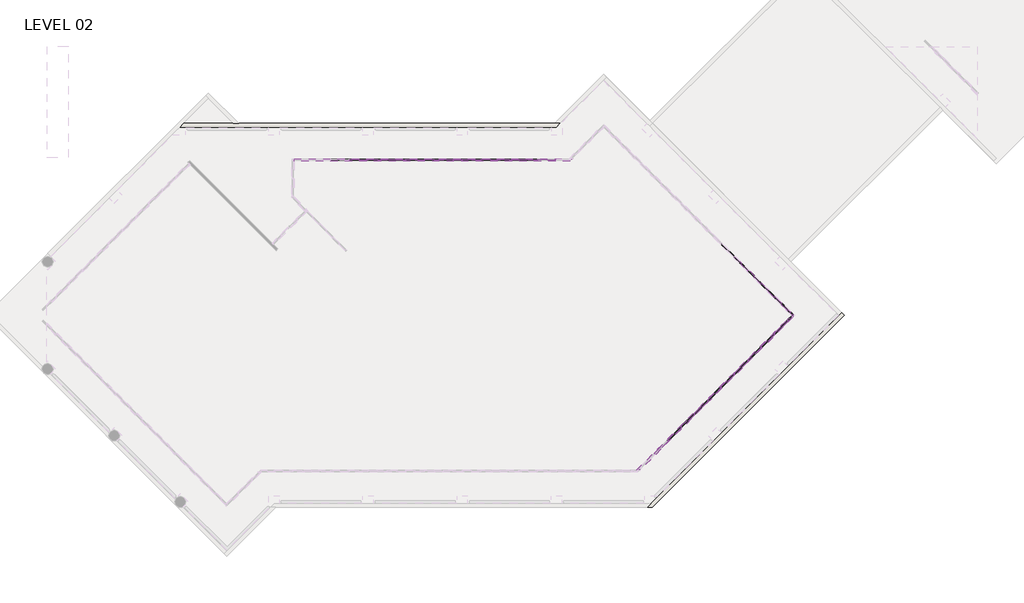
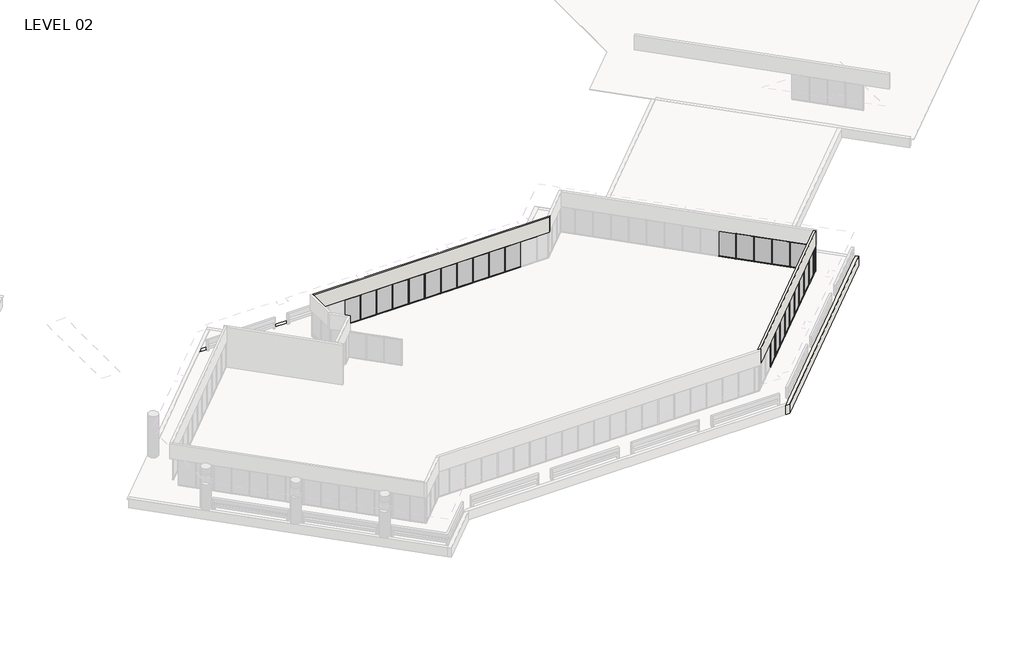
# One storey, part 8 of 19: 81 members, 27 plates, 4 walls.
"""IFC4 building model written with IfcOpenShell, lengths in millimetres."""

from ifc_helpers import new_model, si_unit, frame, origin, place, context, project, spatial, polyline, outline, extrude, faceted_brep, transform, mapped, element, save
from components import member_5247f267, member_79e7b9d8, member_b8d22739, member_e44af9ab, member_800970d4, plate_67294edd, plate_46a4c48d, plate_4e8ae714

model = new_model("IFC4")

# Units and contexts
model_context = context("Model", 3, world=origin())
ifc_project = project(units=[si_unit("LENGTHUNIT", "METRE", prefix="MILLI")], contexts=[model_context])

# Site, building, storey
site = spatial("IfcSite", under=ifc_project)
building = spatial("IfcBuilding", under=site)
storey = spatial("IfcBuildingStorey", under=building, Name="LEVEL 02", Elevation=4140.2)

# Members
placement = place(None, origin())
member_shape = member_5247f267(model_context)
element("IfcMember", 1, ObjectType="Rectangular Mullion : 2\" x 4.5\" rectangular", at=placement, inside=storey, context=model_context, shape_type="MappedRepresentation", body=[
    mapped(member_shape, transform((50294.6517945, 390.679164, 4140.2), x_axis=(0.0, 0.0, -1.0), y_axis=(0.7071067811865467, -0.7071067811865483, 0.0), z_axis=(-0.7071067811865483, -0.7071067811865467, 0.0))),
])
element("IfcMember", 2, ObjectType="Rectangular Mullion : 2\" x 4.5\" rectangular", at=placement, inside=storey, context=model_context, shape_type="MappedRepresentation", body=[
    mapped(member_shape, transform((52449.9132635, 2545.9406331, 4140.2), x_axis=(0.0, 0.0, -1.0), y_axis=(0.707106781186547, -0.707106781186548, 0.0), z_axis=(-0.707106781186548, -0.707106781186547, 0.0))),
])
element("IfcMember", 3, ObjectType="Rectangular Mullion : 2\" x 4.5\" rectangular", at=placement, inside=storey, context=model_context, shape_type="MappedRepresentation", body=[
    mapped(member_shape, transform((53527.5439981, 3623.5713676, 4140.2), x_axis=(0.0, 0.0, -1.0), y_axis=(0.7071067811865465, -0.7071067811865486, 0.0), z_axis=(-0.7071067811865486, -0.7071067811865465, 0.0))),
])
element("IfcMember", 4, ObjectType="Rectangular Mullion : 2\" x 4.5\" rectangular", at=placement, inside=storey, context=model_context, shape_type="MappedRepresentation", body=[
    mapped(member_shape, transform((54605.1747326, 4701.2021021, 4140.2), x_axis=(0.0, 0.0, -1.0), y_axis=(0.707106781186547, -0.707106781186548, 0.0), z_axis=(-0.707106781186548, -0.707106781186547, 0.0))),
])
element("IfcMember", 5, ObjectType="Rectangular Mullion : 2\" x 4.5\" rectangular", at=placement, inside=storey, context=model_context, shape_type="MappedRepresentation", body=[
    mapped(member_shape, transform((56760.4362017, 6856.4635712, 4140.2), x_axis=(0.0, 0.0, -1.0), y_axis=(0.7071067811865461, -0.7071067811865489, 0.0), z_axis=(-0.7071067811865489, -0.7071067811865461, 0.0))),
])
element("IfcMember", 6, ObjectType="Rectangular Mullion : 2\" x 4.5\" rectangular", at=placement, inside=storey, context=model_context, shape_type="MappedRepresentation", body=[
    mapped(member_shape, transform((57838.0669362, 7934.0943057, 4140.2), x_axis=(0.0, 0.0, -1.0), y_axis=(0.7071067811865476, -0.7071067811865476, 0.0), z_axis=(-0.7071067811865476, -0.7071067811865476, 0.0))),
])
element("IfcMember", 7, ObjectType="Rectangular Mullion : 2\" x 4.5\" rectangular", at=placement, inside=storey, context=model_context, shape_type="MappedRepresentation", body=[
    mapped(member_shape, transform((58879.5979736, 12012.4904011, 4140.2), x_axis=(0.0, 0.0, -1.0), y_axis=(0.707106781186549, 0.7071067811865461, 0.0), z_axis=(0.707106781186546, -0.7071067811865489, 0.0))),
])
element("IfcMember", 8, ObjectType="Rectangular Mullion : 2\" x 4.5\" rectangular", at=placement, inside=storey, context=model_context, shape_type="MappedRepresentation", body=[
    mapped(member_shape, transform((56724.3365045, 14167.7518702, 4140.2), x_axis=(0.0, 0.0, -1.0), y_axis=(0.7071067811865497, 0.7071067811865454, 0.0), z_axis=(0.7071067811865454, -0.7071067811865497, 0.0))),
])
element("IfcMember", 9, ObjectType="Rectangular Mullion : 2\" x 4.5\" rectangular", at=placement, inside=storey, context=model_context, shape_type="MappedRepresentation", body=[
    mapped(member_shape, transform((58915.6976707, 9011.7250402, 4140.2), x_axis=(0.0, 0.0, -1.0), y_axis=(0.7071067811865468, -0.7071067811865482, 0.0), z_axis=(-0.7071067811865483, -0.7071067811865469, 0.0))),
])
element("IfcMember", 10, ObjectType="Rectangular Mullion : 2\" x 4.5\" rectangular", at=placement, inside=storey, context=model_context, shape_type="MappedRepresentation", body=[
    mapped(member_shape, transform((59957.2287081, 10934.8596666, 4140.2), x_axis=(0.0, 0.0, -1.0), y_axis=(0.7071067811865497, 0.7071067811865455, 0.0), z_axis=(0.7071067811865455, -0.7071067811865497, 0.0))),
])
element("IfcMember", 11, ObjectType="Rectangular Mullion : 2\" x 4.5\" rectangular", at=placement, inside=storey, context=model_context, shape_type="MappedRepresentation", body=[
    mapped(member_shape, transform((55682.8054671, 5778.8328366, 4140.2), x_axis=(0.0, 0.0, -1.0), y_axis=(0.7071067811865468, -0.7071067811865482, 0.0), z_axis=(-0.7071067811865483, -0.7071067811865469, 0.0))),
])
element("IfcMember", 12, ObjectType="Rectangular Mullion : 2\" x 4.5\" rectangular", at=placement, inside=storey, context=model_context, shape_type="MappedRepresentation", body=[
    mapped(member_shape, transform((51372.282529, 1468.3098985, 4140.2), x_axis=(0.0, 0.0, -1.0), y_axis=(0.7071067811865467, -0.7071067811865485, 0.0), z_axis=(-0.7071067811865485, -0.7071067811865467, 0.0))),
])
element("IfcMember", 13, ObjectType="Rectangular Mullion : 2\" x 4.5\" rectangular", at=placement, inside=storey, context=model_context, shape_type="MappedRepresentation", body=[
    mapped(member_shape, transform((57801.9672391, 13090.1211357, 4140.2), x_axis=(0.0, 0.0, -1.0), y_axis=(0.707106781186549, 0.7071067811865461, 0.0), z_axis=(0.707106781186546, -0.7071067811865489, 0.0))),
])
element("IfcMember", 14, ObjectType="Rectangular Mullion : 2\" x 4.5\" rectangular", at=placement, inside=storey, context=model_context, shape_type="MappedRepresentation", body=[
    mapped(member_shape, transform((55646.70577, 15245.3826047, 4140.2), x_axis=(0.0, 0.0, -1.0), y_axis=(0.7071067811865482, 0.7071067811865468, 0.0), z_axis=(0.7071067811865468, -0.7071067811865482, 0.0))),
])
element("IfcMember", 15, ObjectType="Rectangular Mullion : 2\" x 4.5\" rectangular", at=placement, inside=storey, context=model_context, shape_type="MappedRepresentation", body=[
    mapped(member_shape, transform((36658.55, 23089.2828721, 4140.2), x_axis=(0.0, 0.0, -1.0), y_axis=(0.0, 1.0, 0.0), z_axis=(1.0, 0.0, 0.0))),
])
element("IfcMember", 16, ObjectType="Rectangular Mullion : 2\" x 4.5\" rectangular", at=placement, inside=storey, context=model_context, shape_type="MappedRepresentation", body=[
    mapped(member_shape, transform((33610.55, 23089.2828721, 4140.2), x_axis=(0.0, 0.0, -1.0), y_axis=(0.0, 1.0, 0.0), z_axis=(1.0, 0.0, 0.0))),
])
element("IfcMember", 17, ObjectType="Rectangular Mullion : 2\" x 4.5\" rectangular", at=placement, inside=storey, context=model_context, shape_type="MappedRepresentation", body=[
    mapped(member_shape, transform((32086.55, 23089.2828721, 4140.2), x_axis=(0.0, 0.0, -1.0), y_axis=(0.0, 1.0, 0.0), z_axis=(1.0, 0.0, 0.0))),
])
element("IfcMember", 18, ObjectType="Rectangular Mullion : 2\" x 4.5\" rectangular", at=placement, inside=storey, context=model_context, shape_type="MappedRepresentation", body=[
    mapped(member_shape, transform((29038.55, 23089.2828721, 4140.2), x_axis=(0.0, 0.0, -1.0), y_axis=(0.0, 1.0, 0.0), z_axis=(1.0, 0.0, 0.0))),
])
element("IfcMember", 19, ObjectType="Rectangular Mullion : 2\" x 4.5\" rectangular", at=placement, inside=storey, context=model_context, shape_type="MappedRepresentation", body=[
    mapped(member_shape, transform((25990.55, 23089.2828721, 4140.2), x_axis=(0.0, 0.0, -1.0), y_axis=(0.0, 1.0, 0.0), z_axis=(1.0, 0.0, 0.0))),
])
element("IfcMember", 20, ObjectType="Rectangular Mullion : 2\" x 4.5\" rectangular", at=placement, inside=storey, context=model_context, shape_type="MappedRepresentation", body=[
    mapped(member_shape, transform((24466.55, 23089.2828721, 4140.2), x_axis=(0.0, 0.0, -1.0), y_axis=(0.0, 1.0, 0.0), z_axis=(1.0, 0.0, 0.0))),
])
element("IfcMember", 21, ObjectType="Rectangular Mullion : 2\" x 4.5\" rectangular", at=placement, inside=storey, context=model_context, shape_type="MappedRepresentation", body=[
    mapped(member_shape, transform((35134.55, 23089.2828721, 4140.2), x_axis=(0.0, 0.0, -1.0), y_axis=(0.0, 1.0, 0.0), z_axis=(1.0, 0.0, 0.0))),
])
element("IfcMember", 22, ObjectType="Rectangular Mullion : 2\" x 4.5\" rectangular", at=placement, inside=storey, context=model_context, shape_type="MappedRepresentation", body=[
    mapped(member_shape, transform((38182.55, 23089.2828721, 4140.2), x_axis=(0.0, 0.0, -1.0), y_axis=(0.0, 1.0, 0.0), z_axis=(1.0, 0.0, 0.0))),
])
element("IfcMember", 23, ObjectType="Rectangular Mullion : 2\" x 4.5\" rectangular", at=placement, inside=storey, context=model_context, shape_type="MappedRepresentation", body=[
    mapped(member_shape, transform((39706.55, 23089.2828721, 4140.2), x_axis=(0.0, 0.0, -1.0), y_axis=(0.0, 1.0, 0.0), z_axis=(1.0, 0.0, 0.0))),
])
element("IfcMember", 24, ObjectType="Rectangular Mullion : 2\" x 4.5\" rectangular", at=placement, inside=storey, context=model_context, shape_type="MappedRepresentation", body=[
    mapped(member_shape, transform((27514.55, 23089.2828721, 4140.2), x_axis=(0.0, 0.0, -1.0), y_axis=(0.0, 1.0, 0.0), z_axis=(1.0, 0.0, 0.0))),
])
element("IfcMember", 25, ObjectType="Rectangular Mullion : 2\" x 4.5\" rectangular", at=placement, inside=storey, context=model_context, shape_type="MappedRepresentation", body=[
    mapped(member_shape, transform((30562.55, 23089.2828721, 4140.2), x_axis=(0.0, 0.0, -1.0), y_axis=(0.0, 1.0, 0.0), z_axis=(1.0, 0.0, 0.0))),
])
element("IfcMember", 26, ObjectType="Rectangular Mullion : 2\" x 4.5\" rectangular", at=placement, inside=storey, context=model_context, shape_type="MappedRepresentation", body=[
    mapped(member_shape, transform((50258.73077, 354.7581395, 6731.0), x_axis=(0.0, 0.0, 1.0), y_axis=(0.7071067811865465, -0.7071067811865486, 0.0), z_axis=(0.7071067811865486, 0.7071067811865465, 0.0))),
])
element("IfcMember", 27, ObjectType="Rectangular Mullion : 2\" x 4.5\" rectangular", at=placement, inside=storey, context=model_context, shape_type="MappedRepresentation", body=[
    mapped(member_shape, transform((52413.9922391, 2510.0196086, 6731.0), x_axis=(0.0, 0.0, 1.0), y_axis=(0.7071067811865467, -0.7071067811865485, 0.0), z_axis=(0.7071067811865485, 0.7071067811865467, 0.0))),
])
element("IfcMember", 28, ObjectType="Rectangular Mullion : 2\" x 4.5\" rectangular", at=placement, inside=storey, context=model_context, shape_type="MappedRepresentation", body=[
    mapped(member_shape, transform((53491.6229736, 3587.6503431, 6731.0), x_axis=(0.0, 0.0, 1.0), y_axis=(0.7071067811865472, -0.7071067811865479, 0.0), z_axis=(0.7071067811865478, 0.7071067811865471, 0.0))),
])
element("IfcMember", 29, ObjectType="Rectangular Mullion : 2\" x 4.5\" rectangular", at=placement, inside=storey, context=model_context, shape_type="MappedRepresentation", body=[
    mapped(member_shape, transform((54569.2537081, 4665.2810776, 6731.0), x_axis=(0.0, 0.0, 1.0), y_axis=(0.7071067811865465, -0.7071067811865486, 0.0), z_axis=(0.7071067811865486, 0.7071067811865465, 0.0))),
])
element("IfcMember", 30, ObjectType="Rectangular Mullion : 2\" x 4.5\" rectangular", at=placement, inside=storey, context=model_context, shape_type="MappedRepresentation", body=[
    mapped(member_shape, transform((56724.5151772, 6820.5425467, 6731.0), x_axis=(0.0, 0.0, 1.0), y_axis=(0.7071067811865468, -0.7071067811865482, 0.0), z_axis=(0.7071067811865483, 0.7071067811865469, 0.0))),
])
element("IfcMember", 31, ObjectType="Rectangular Mullion : 2\" x 4.5\" rectangular", at=placement, inside=storey, context=model_context, shape_type="MappedRepresentation", body=[
    mapped(member_shape, transform((57802.1459117, 7898.1732812, 6731.0), x_axis=(0.0, 0.0, 1.0), y_axis=(0.7071067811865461, -0.7071067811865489, 0.0), z_axis=(0.7071067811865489, 0.7071067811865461, 0.0))),
])
element("IfcMember", 32, ObjectType="Rectangular Mullion : 2\" x 4.5\" rectangular", at=placement, inside=storey, context=model_context, shape_type="MappedRepresentation", body=[
    mapped(member_shape, transform((58915.5189981, 11976.5693766, 6731.0), x_axis=(0.0, 0.0, 1.0), y_axis=(0.7071067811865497, 0.7071067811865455, 0.0), z_axis=(-0.7071067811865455, 0.7071067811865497, 0.0))),
])
element("IfcMember", 33, ObjectType="Rectangular Mullion : 2\" x 4.5\" rectangular", at=placement, inside=storey, context=model_context, shape_type="MappedRepresentation", body=[
    mapped(member_shape, transform((56760.257529, 14131.8308457, 6731.0), x_axis=(0.0, 0.0, 1.0), y_axis=(0.707106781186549, 0.7071067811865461, 0.0), z_axis=(-0.707106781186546, 0.7071067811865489, 0.0))),
])
element("IfcMember", 34, ObjectType="Rectangular Mullion : 2\" x 4.5\" rectangular", at=placement, inside=storey, context=model_context, shape_type="MappedRepresentation", body=[
    mapped(member_shape, transform((58879.7766462, 8975.8040157, 6731.0), x_axis=(0.0, 0.0, 1.0), y_axis=(0.7071067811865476, -0.7071067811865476, 0.0), z_axis=(0.7071067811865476, 0.7071067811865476, 0.0))),
])
element("IfcMember", 35, ObjectType="Rectangular Mullion : 2\" x 4.5\" rectangular", at=placement, inside=storey, context=model_context, shape_type="MappedRepresentation", body=[
    mapped(member_shape, transform((55646.8844426, 5742.9118122, 6731.0), x_axis=(0.0, 0.0, 1.0), y_axis=(0.707106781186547, -0.707106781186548, 0.0), z_axis=(0.707106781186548, 0.707106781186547, 0.0))),
])
element("IfcMember", 36, ObjectType="Rectangular Mullion : 2\" x 4.5\" rectangular", at=placement, inside=storey, context=model_context, shape_type="MappedRepresentation", body=[
    mapped(member_shape, transform((51336.3615045, 1432.388874, 6731.0), x_axis=(0.0, 0.0, 1.0), y_axis=(0.7071067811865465, -0.7071067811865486, 0.0), z_axis=(0.7071067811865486, 0.7071067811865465, 0.0))),
])
element("IfcMember", 37, ObjectType="Rectangular Mullion : 2\" x 4.5\" rectangular", at=placement, inside=storey, context=model_context, shape_type="MappedRepresentation", body=[
    mapped(member_shape, transform((59957.4073808, 10053.4347503, 6731.0), x_axis=(0.0, 0.0, 1.0), y_axis=(0.7071067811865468, -0.7071067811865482, 0.0), z_axis=(0.7071067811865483, 0.7071067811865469, 0.0))),
])
element("IfcMember", 38, ObjectType="Rectangular Mullion : 2\" x 4.5\" rectangular", at=placement, inside=storey, context=model_context, shape_type="MappedRepresentation", body=[
    mapped(member_shape, transform((57837.8882635, 13054.2001112, 6731.0), x_axis=(0.0, 0.0, 1.0), y_axis=(0.7071067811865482, 0.7071067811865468, 0.0), z_axis=(-0.7071067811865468, 0.7071067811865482, 0.0))),
])
element("IfcMember", 39, ObjectType="Rectangular Mullion : 2\" x 4.5\" rectangular", at=placement, inside=storey, context=model_context, shape_type="MappedRepresentation", body=[
    mapped(member_shape, transform((55682.6267945, 15209.4615802, 6731.0), x_axis=(0.0, 0.0, 1.0), y_axis=(0.7071067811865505, 0.7071067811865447, 0.0), z_axis=(-0.7071067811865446, 0.7071067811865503, 0.0))),
])
element("IfcMember", 40, ObjectType="Rectangular Mullion : 2\" x 4.5\" rectangular", at=placement, inside=storey, context=model_context, shape_type="MappedRepresentation", body=[
    mapped(member_shape, transform((36709.35, 23089.2828721, 6731.0), x_axis=(0.0, 0.0, 1.0), y_axis=(0.0, 1.0, 0.0), z_axis=(-1.0, 0.0, 0.0))),
])
element("IfcMember", 41, ObjectType="Rectangular Mullion : 2\" x 4.5\" rectangular", at=placement, inside=storey, context=model_context, shape_type="MappedRepresentation", body=[
    mapped(member_shape, transform((33661.35, 23089.2828721, 6731.0), x_axis=(0.0, 0.0, 1.0), y_axis=(0.0, 1.0, 0.0), z_axis=(-1.0, 0.0, 0.0))),
])
element("IfcMember", 42, ObjectType="Rectangular Mullion : 2\" x 4.5\" rectangular", at=placement, inside=storey, context=model_context, shape_type="MappedRepresentation", body=[
    mapped(member_shape, transform((32137.35, 23089.2828721, 6731.0), x_axis=(0.0, 0.0, 1.0), y_axis=(0.0, 1.0, 0.0), z_axis=(-1.0, 0.0, 0.0))),
])
element("IfcMember", 43, ObjectType="Rectangular Mullion : 2\" x 4.5\" rectangular", at=placement, inside=storey, context=model_context, shape_type="MappedRepresentation", body=[
    mapped(member_shape, transform((29089.35, 23089.2828721, 6731.0), x_axis=(0.0, 0.0, 1.0), y_axis=(0.0, 1.0, 0.0), z_axis=(-1.0, 0.0, 0.0))),
])
element("IfcMember", 44, ObjectType="Rectangular Mullion : 2\" x 4.5\" rectangular", at=placement, inside=storey, context=model_context, shape_type="MappedRepresentation", body=[
    mapped(member_shape, transform((26041.35, 23089.2828721, 6731.0), x_axis=(0.0, 0.0, 1.0), y_axis=(0.0, 1.0, 0.0), z_axis=(-1.0, 0.0, 0.0))),
])
element("IfcMember", 45, ObjectType="Rectangular Mullion : 2\" x 4.5\" rectangular", at=placement, inside=storey, context=model_context, shape_type="MappedRepresentation", body=[
    mapped(member_shape, transform((24517.35, 23089.2828721, 6731.0), x_axis=(0.0, 0.0, 1.0), y_axis=(0.0, 1.0, 0.0), z_axis=(-1.0, 0.0, 0.0))),
])
element("IfcMember", 46, ObjectType="Rectangular Mullion : 2\" x 4.5\" rectangular", at=placement, inside=storey, context=model_context, shape_type="MappedRepresentation", body=[
    mapped(member_shape, transform((35185.35, 23089.2828721, 6731.0), x_axis=(0.0, 0.0, 1.0), y_axis=(0.0, 1.0, 0.0), z_axis=(-1.0, 0.0, 0.0))),
])
element("IfcMember", 47, ObjectType="Rectangular Mullion : 2\" x 4.5\" rectangular", at=placement, inside=storey, context=model_context, shape_type="MappedRepresentation", body=[
    mapped(member_shape, transform((38233.35, 23089.2828721, 6731.0), x_axis=(0.0, 0.0, 1.0), y_axis=(0.0, 1.0, 0.0), z_axis=(-1.0, 0.0, 0.0))),
])
element("IfcMember", 48, ObjectType="Rectangular Mullion : 2\" x 4.5\" rectangular", at=placement, inside=storey, context=model_context, shape_type="MappedRepresentation", body=[
    mapped(member_shape, transform((39757.35, 23089.2828721, 6731.0), x_axis=(0.0, 0.0, 1.0), y_axis=(0.0, 1.0, 0.0), z_axis=(-1.0, 0.0, 0.0))),
])
element("IfcMember", 49, ObjectType="Rectangular Mullion : 2\" x 4.5\" rectangular", at=placement, inside=storey, context=model_context, shape_type="MappedRepresentation", body=[
    mapped(member_shape, transform((27565.35, 23089.2828721, 6731.0), x_axis=(0.0, 0.0, 1.0), y_axis=(0.0, 1.0, 0.0), z_axis=(-1.0, 0.0, 0.0))),
])
element("IfcMember", 50, ObjectType="Rectangular Mullion : 2\" x 4.5\" rectangular", at=placement, inside=storey, context=model_context, shape_type="MappedRepresentation", body=[
    mapped(member_shape, transform((30613.35, 23089.2828721, 6731.0), x_axis=(0.0, 0.0, 1.0), y_axis=(0.0, 1.0, 0.0), z_axis=(-1.0, 0.0, 0.0))),
])
member_2_shape = member_79e7b9d8(model_context)
element("IfcMember", 51, ObjectType="Rectangular Mullion : 2\" x 4.5\" rectangular", at=placement, inside=storey, context=model_context, shape_type="MappedRepresentation", body=[
    mapped(member_2_shape, transform((60362.1094781, 10458.1368476, 6731.0), x_axis=(0.0, 0.0, 1.0), y_axis=(0.7071067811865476, -0.7071067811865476, 0.0), z_axis=(0.7071067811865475, 0.7071067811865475, 0.0))),
])
element("IfcMember", 52, ObjectType="Rectangular Mullion : 2\" x 4.5\" rectangular", at=placement, inside=storey, context=model_context, shape_type="MappedRepresentation", body=[
    mapped(member_2_shape, transform((59993.3284052, 10089.3557748, 4140.2), x_axis=(0.0, 0.0, -1.0), y_axis=(0.7071067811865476, -0.7071067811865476, 0.0), z_axis=(-0.7071067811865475, -0.7071067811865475, 0.0))),
])
member_3_shape = member_b8d22739(model_context)
element("IfcMember", 53, ObjectType="Rectangular Mullion : 2\" x 4.5\" rectangular", at=placement, inside=storey, context=model_context, shape_type="MappedRepresentation", body=[
    mapped(member_3_shape, transform((60362.1094781, 10529.9788966, 4140.2), x_axis=(0.0, 0.0, -1.0), y_axis=(0.7071067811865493, 0.7071067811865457, 0.0), z_axis=(0.7071067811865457, -0.7071067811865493, 0.0))),
])
element("IfcMember", 54, ObjectType="Rectangular Mullion : 2\" x 4.5\" rectangular", at=placement, inside=storey, context=model_context, shape_type="MappedRepresentation", body=[
    mapped(member_3_shape, transform((59993.1497326, 10898.9386421, 6731.0), x_axis=(0.0, 0.0, 1.0), y_axis=(0.7071067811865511, 0.7071067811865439, 0.0), z_axis=(-0.7071067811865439, 0.7071067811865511, 0.0))),
])
member_4_shape = member_e44af9ab(model_context)
element("IfcMember", 55, ObjectType="Rectangular Mullion : 2\" x 4.5\" rectangular", at=placement, inside=storey, context=model_context, shape_type="MappedRepresentation", body=[
    mapped(member_4_shape, transform((50276.6912822, 372.7186518, 4140.2), x_axis=(0.7071067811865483, 0.7071067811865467, 0.0), y_axis=(0.7071067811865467, -0.7071067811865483, 0.0), z_axis=(0.0, 0.0, -1.0))),
])
element("IfcMember", 56, ObjectType="Rectangular Mullion : 2\" x 4.5\" rectangular", at=placement, inside=storey, context=model_context, shape_type="MappedRepresentation", body=[
    mapped(member_4_shape, transform((52431.9527513, 2527.9801208, 4140.2), x_axis=(0.7071067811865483, 0.7071067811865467, 0.0), y_axis=(0.7071067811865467, -0.7071067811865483, 0.0), z_axis=(0.0, 0.0, -1.0))),
])
element("IfcMember", 57, ObjectType="Rectangular Mullion : 2\" x 4.5\" rectangular", at=placement, inside=storey, context=model_context, shape_type="MappedRepresentation", body=[
    mapped(member_4_shape, transform((53509.5834858, 3605.6108553, 4140.2), x_axis=(0.7071067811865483, 0.7071067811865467, 0.0), y_axis=(0.7071067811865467, -0.7071067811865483, 0.0), z_axis=(0.0, 0.0, -1.0))),
])
element("IfcMember", 58, ObjectType="Rectangular Mullion : 2\" x 4.5\" rectangular", at=placement, inside=storey, context=model_context, shape_type="MappedRepresentation", body=[
    mapped(member_4_shape, transform((54587.2142204, 4683.2415899, 4140.2), x_axis=(0.7071067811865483, 0.7071067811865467, 0.0), y_axis=(0.7071067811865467, -0.7071067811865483, 0.0), z_axis=(0.0, 0.0, -1.0))),
])
element("IfcMember", 59, ObjectType="Rectangular Mullion : 2\" x 4.5\" rectangular", at=placement, inside=storey, context=model_context, shape_type="MappedRepresentation", body=[
    mapped(member_4_shape, transform((56742.4756894, 6838.5030589, 4140.2), x_axis=(0.7071067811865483, 0.7071067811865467, 0.0), y_axis=(0.7071067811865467, -0.7071067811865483, 0.0), z_axis=(0.0, 0.0, -1.0))),
])
element("IfcMember", 60, ObjectType="Rectangular Mullion : 2\" x 4.5\" rectangular", at=placement, inside=storey, context=model_context, shape_type="MappedRepresentation", body=[
    mapped(member_4_shape, transform((57820.1064239, 7916.1337935, 4140.2), x_axis=(0.7071067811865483, 0.7071067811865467, 0.0), y_axis=(0.7071067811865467, -0.7071067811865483, 0.0), z_axis=(0.0, 0.0, -1.0))),
])
element("IfcMember", 61, ObjectType="Rectangular Mullion : 2\" x 4.5\" rectangular", at=placement, inside=storey, context=model_context, shape_type="MappedRepresentation", body=[
    mapped(member_4_shape, transform((58897.5584858, 11994.5298889, 4140.2), x_axis=(-0.7071067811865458, 0.7071067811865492, 0.0), y_axis=(0.7071067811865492, 0.7071067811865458, 0.0), z_axis=(0.0, 0.0, -1.0))),
])
element("IfcMember", 62, ObjectType="Rectangular Mullion : 2\" x 4.5\" rectangular", at=placement, inside=storey, context=model_context, shape_type="MappedRepresentation", body=[
    mapped(member_4_shape, transform((56742.2970168, 14149.7913579, 4140.2), x_axis=(-0.7071067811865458, 0.7071067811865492, 0.0), y_axis=(0.7071067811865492, 0.7071067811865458, 0.0), z_axis=(0.0, 0.0, -1.0))),
])
element("IfcMember", 63, ObjectType="Rectangular Mullion : 2\" x 4.5\" rectangular", at=placement, inside=storey, context=model_context, shape_type="MappedRepresentation", body=[
    mapped(member_4_shape, transform((58897.7371585, 8993.764528, 4140.2), x_axis=(0.7071067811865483, 0.7071067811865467, 0.0), y_axis=(0.7071067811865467, -0.7071067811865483, 0.0), z_axis=(0.0, 0.0, -1.0))),
])
element("IfcMember", 64, ObjectType="Rectangular Mullion : 2\" x 4.5\" rectangular", at=placement, inside=storey, context=model_context, shape_type="MappedRepresentation", body=[
    mapped(member_4_shape, transform((59975.1892204, 10916.8991544, 4140.2), x_axis=(-0.7071067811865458, 0.7071067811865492, 0.0), y_axis=(0.7071067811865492, 0.7071067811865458, 0.0), z_axis=(0.0, 0.0, -1.0))),
])
element("IfcMember", 65, ObjectType="Rectangular Mullion : 2\" x 4.5\" rectangular", at=placement, inside=storey, context=model_context, shape_type="MappedRepresentation", body=[
    mapped(member_4_shape, transform((55664.8449549, 5760.8723244, 4140.2), x_axis=(0.7071067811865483, 0.7071067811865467, 0.0), y_axis=(0.7071067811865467, -0.7071067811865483, 0.0), z_axis=(0.0, 0.0, -1.0))),
])
element("IfcMember", 66, ObjectType="Rectangular Mullion : 2\" x 4.5\" rectangular", at=placement, inside=storey, context=model_context, shape_type="MappedRepresentation", body=[
    mapped(member_4_shape, transform((51354.3220168, 1450.3493863, 4140.2), x_axis=(0.7071067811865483, 0.7071067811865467, 0.0), y_axis=(0.7071067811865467, -0.7071067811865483, 0.0), z_axis=(0.0, 0.0, -1.0))),
])
element("IfcMember", 67, ObjectType="Rectangular Mullion : 2\" x 4.5\" rectangular", at=placement, inside=storey, context=model_context, shape_type="MappedRepresentation", body=[
    mapped(member_4_shape, transform((59975.367893, 10071.3952625, 4140.2), x_axis=(0.7071067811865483, 0.7071067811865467, 0.0), y_axis=(0.7071067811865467, -0.7071067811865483, 0.0), z_axis=(0.0, 0.0, -1.0))),
])
element("IfcMember", 68, ObjectType="Rectangular Mullion : 2\" x 4.5\" rectangular", at=placement, inside=storey, context=model_context, shape_type="MappedRepresentation", body=[
    mapped(member_4_shape, transform((57819.9277513, 13072.1606234, 4140.2), x_axis=(-0.7071067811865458, 0.7071067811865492, 0.0), y_axis=(0.7071067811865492, 0.7071067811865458, 0.0), z_axis=(0.0, 0.0, -1.0))),
])
element("IfcMember", 69, ObjectType="Rectangular Mullion : 2\" x 4.5\" rectangular", at=placement, inside=storey, context=model_context, shape_type="MappedRepresentation", body=[
    mapped(member_4_shape, transform((55664.6662822, 15227.4220925, 4140.2), x_axis=(-0.7071067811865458, 0.7071067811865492, 0.0), y_axis=(0.7071067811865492, 0.7071067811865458, 0.0), z_axis=(0.0, 0.0, -1.0))),
])
element("IfcMember", 70, ObjectType="Rectangular Mullion : 2\" x 4.5\" rectangular", at=placement, inside=storey, context=model_context, shape_type="MappedRepresentation", body=[
    mapped(member_4_shape, transform((36683.95, 23089.2828721, 4140.2), x_axis=(-1.0, 0.0, 0.0), y_axis=(0.0, 1.0, 0.0), z_axis=(0.0, 0.0, -1.0))),
])
element("IfcMember", 71, ObjectType="Rectangular Mullion : 2\" x 4.5\" rectangular", at=placement, inside=storey, context=model_context, shape_type="MappedRepresentation", body=[
    mapped(member_4_shape, transform((33635.95, 23089.2828721, 4140.2), x_axis=(-1.0, 0.0, 0.0), y_axis=(0.0, 1.0, 0.0), z_axis=(0.0, 0.0, -1.0))),
])
element("IfcMember", 72, ObjectType="Rectangular Mullion : 2\" x 4.5\" rectangular", at=placement, inside=storey, context=model_context, shape_type="MappedRepresentation", body=[
    mapped(member_4_shape, transform((32111.95, 23089.2828721, 4140.2), x_axis=(-1.0, 0.0, 0.0), y_axis=(0.0, 1.0, 0.0), z_axis=(0.0, 0.0, -1.0))),
])
element("IfcMember", 73, ObjectType="Rectangular Mullion : 2\" x 4.5\" rectangular", at=placement, inside=storey, context=model_context, shape_type="MappedRepresentation", body=[
    mapped(member_4_shape, transform((29063.95, 23089.2828721, 4140.2), x_axis=(-1.0, 0.0, 0.0), y_axis=(0.0, 1.0, 0.0), z_axis=(0.0, 0.0, -1.0))),
])
element("IfcMember", 74, ObjectType="Rectangular Mullion : 2\" x 4.5\" rectangular", at=placement, inside=storey, context=model_context, shape_type="MappedRepresentation", body=[
    mapped(member_4_shape, transform((26015.95, 23089.2828721, 4140.2), x_axis=(-1.0, 0.0, 0.0), y_axis=(0.0, 1.0, 0.0), z_axis=(0.0, 0.0, -1.0))),
])
element("IfcMember", 75, ObjectType="Rectangular Mullion : 2\" x 4.5\" rectangular", at=placement, inside=storey, context=model_context, shape_type="MappedRepresentation", body=[
    mapped(member_4_shape, transform((24491.95, 23089.2828721, 4140.2), x_axis=(-1.0, 0.0, 0.0), y_axis=(0.0, 1.0, 0.0), z_axis=(0.0, 0.0, -1.0))),
])
element("IfcMember", 76, ObjectType="Rectangular Mullion : 2\" x 4.5\" rectangular", at=placement, inside=storey, context=model_context, shape_type="MappedRepresentation", body=[
    mapped(member_4_shape, transform((35159.95, 23089.2828721, 4140.2), x_axis=(-1.0, 0.0, 0.0), y_axis=(0.0, 1.0, 0.0), z_axis=(0.0, 0.0, -1.0))),
])
element("IfcMember", 77, ObjectType="Rectangular Mullion : 2\" x 4.5\" rectangular", at=placement, inside=storey, context=model_context, shape_type="MappedRepresentation", body=[
    mapped(member_4_shape, transform((38207.95, 23089.2828721, 4140.2), x_axis=(-1.0, 0.0, 0.0), y_axis=(0.0, 1.0, 0.0), z_axis=(0.0, 0.0, -1.0))),
])
element("IfcMember", 78, ObjectType="Rectangular Mullion : 2\" x 4.5\" rectangular", at=placement, inside=storey, context=model_context, shape_type="MappedRepresentation", body=[
    mapped(member_4_shape, transform((27539.95, 23089.2828721, 4140.2), x_axis=(-1.0, 0.0, 0.0), y_axis=(0.0, 1.0, 0.0), z_axis=(0.0, 0.0, -1.0))),
])
element("IfcMember", 79, ObjectType="Rectangular Mullion : 2\" x 4.5\" rectangular", at=placement, inside=storey, context=model_context, shape_type="MappedRepresentation", body=[
    mapped(member_4_shape, transform((30587.95, 23089.2828721, 4140.2), x_axis=(-1.0, 0.0, 0.0), y_axis=(0.0, 1.0, 0.0), z_axis=(0.0, 0.0, -1.0))),
])
member_5_shape = member_800970d4(model_context)
element("IfcMember", 80, ObjectType="Rectangular Mullion : 2\" x 4.5\" rectangular", at=placement, inside=storey, context=model_context, shape_type="MappedRepresentation", body=[
    mapped(member_5_shape, transform((60398.0305026, 10494.0578721, 4140.2), x_axis=(0.7071067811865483, 0.7071067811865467, 0.0), y_axis=(0.7071067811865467, -0.7071067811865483, 0.0), z_axis=(0.0, 0.0, -1.0))),
])
element("IfcMember", 81, ObjectType="Rectangular Mullion : 2\" x 4.5\" rectangular", at=placement, inside=storey, context=model_context, shape_type="MappedRepresentation", body=[
    mapped(member_5_shape, transform((60398.0305026, 10494.0578721, 6731.0), x_axis=(0.7071067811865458, -0.7071067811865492, 0.0), y_axis=(0.7071067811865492, 0.7071067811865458, 0.0), z_axis=(0.0, 0.0, 1.0))),
])

# Plates
plate_shape = plate_67294edd(model_context)
element("IfcPlate", 82, ObjectType="System Panel : 1/4\" Glass", at=placement, inside=storey, context=model_context, shape_type="MappedRepresentation", body=[
    mapped(plate_shape, transform((50815.5066495, 911.534019, 4191.0), x_axis=(0.7071067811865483, 0.7071067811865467, 0.0), y_axis=(-0.7071067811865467, 0.7071067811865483, 0.0), z_axis=(0.0, 0.0, 1.0))),
])
element("IfcPlate", 83, ObjectType="System Panel : 1/4\" Glass", at=placement, inside=storey, context=model_context, shape_type="MappedRepresentation", body=[
    mapped(plate_shape, transform((52970.7681186, 3066.7954881, 4191.0), x_axis=(0.7071067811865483, 0.7071067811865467, 0.0), y_axis=(-0.7071067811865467, 0.7071067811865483, 0.0), z_axis=(0.0, 0.0, 1.0))),
])
element("IfcPlate", 84, ObjectType="System Panel : 1/4\" Glass", at=placement, inside=storey, context=model_context, shape_type="MappedRepresentation", body=[
    mapped(plate_shape, transform((54048.3988531, 4144.4262226, 4191.0), x_axis=(0.7071067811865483, 0.7071067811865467, 0.0), y_axis=(-0.7071067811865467, 0.7071067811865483, 0.0), z_axis=(0.0, 0.0, 1.0))),
])
element("IfcPlate", 85, ObjectType="System Panel : 1/4\" Glass", at=placement, inside=storey, context=model_context, shape_type="MappedRepresentation", body=[
    mapped(plate_shape, transform((55126.0295876, 5222.0569571, 4191.0), x_axis=(0.7071067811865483, 0.7071067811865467, 0.0), y_axis=(-0.7071067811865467, 0.7071067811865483, 0.0), z_axis=(0.0, 0.0, 1.0))),
])
element("IfcPlate", 86, ObjectType="System Panel : 1/4\" Glass", at=placement, inside=storey, context=model_context, shape_type="MappedRepresentation", body=[
    mapped(plate_shape, transform((57281.2910567, 7377.3184262, 4191.0), x_axis=(0.7071067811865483, 0.7071067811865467, 0.0), y_axis=(-0.7071067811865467, 0.7071067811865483, 0.0), z_axis=(0.0, 0.0, 1.0))),
])
element("IfcPlate", 87, ObjectType="System Panel : 1/4\" Glass", at=placement, inside=storey, context=model_context, shape_type="MappedRepresentation", body=[
    mapped(plate_shape, transform((58358.9217912, 8454.9491607, 4191.0), x_axis=(0.7071067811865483, 0.7071067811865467, 0.0), y_axis=(-0.7071067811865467, 0.7071067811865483, 0.0), z_axis=(0.0, 0.0, 1.0))),
])
element("IfcPlate", 88, ObjectType="System Panel : 1/4\" Glass", at=placement, inside=storey, context=model_context, shape_type="MappedRepresentation", body=[
    mapped(plate_shape, transform((58358.7431186, 12533.3452562, 4191.0), x_axis=(-0.7071067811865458, 0.7071067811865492, 0.0), y_axis=(-0.7071067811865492, -0.7071067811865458, 0.0), z_axis=(0.0, 0.0, 1.0))),
])
element("IfcPlate", 89, ObjectType="System Panel : 1/4\" Glass", at=placement, inside=storey, context=model_context, shape_type="MappedRepresentation", body=[
    mapped(plate_shape, transform((56203.4816495, 14688.6067252, 4191.0), x_axis=(-0.7071067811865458, 0.7071067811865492, 0.0), y_axis=(-0.7071067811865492, -0.7071067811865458, 0.0), z_axis=(0.0, 0.0, 1.0))),
])
element("IfcPlate", 90, ObjectType="System Panel : 1/4\" Glass", at=placement, inside=storey, context=model_context, shape_type="MappedRepresentation", body=[
    mapped(plate_shape, transform((59436.5525257, 9532.5798953, 4191.0), x_axis=(0.7071067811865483, 0.7071067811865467, 0.0), y_axis=(-0.7071067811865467, 0.7071067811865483, 0.0), z_axis=(0.0, 0.0, 1.0))),
])
element("IfcPlate", 91, ObjectType="System Panel : 1/4\" Glass", at=placement, inside=storey, context=model_context, shape_type="MappedRepresentation", body=[
    mapped(plate_shape, transform((59436.3738531, 11455.7145216, 4191.0), x_axis=(-0.7071067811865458, 0.7071067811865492, 0.0), y_axis=(-0.7071067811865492, -0.7071067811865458, 0.0), z_axis=(0.0, 0.0, 1.0))),
])
element("IfcPlate", 92, ObjectType="System Panel : 1/4\" Glass", at=placement, inside=storey, context=model_context, shape_type="MappedRepresentation", body=[
    mapped(plate_shape, transform((56203.6603222, 6299.6876917, 4191.0), x_axis=(0.7071067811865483, 0.7071067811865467, 0.0), y_axis=(-0.7071067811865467, 0.7071067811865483, 0.0), z_axis=(0.0, 0.0, 1.0))),
])
element("IfcPlate", 93, ObjectType="System Panel : 1/4\" Glass", at=placement, inside=storey, context=model_context, shape_type="MappedRepresentation", body=[
    mapped(plate_shape, transform((51893.137384, 1989.1647536, 4191.0), x_axis=(0.7071067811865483, 0.7071067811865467, 0.0), y_axis=(-0.7071067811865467, 0.7071067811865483, 0.0), z_axis=(0.0, 0.0, 1.0))),
])
element("IfcPlate", 94, ObjectType="System Panel : 1/4\" Glass", at=placement, inside=storey, context=model_context, shape_type="MappedRepresentation", body=[
    mapped(plate_shape, transform((57281.112384, 13610.9759907, 4191.0), x_axis=(-0.7071067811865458, 0.7071067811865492, 0.0), y_axis=(-0.7071067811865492, -0.7071067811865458, 0.0), z_axis=(0.0, 0.0, 1.0))),
])
element("IfcPlate", 95, ObjectType="System Panel : 1/4\" Glass", at=placement, inside=storey, context=model_context, shape_type="MappedRepresentation", body=[
    mapped(plate_shape, transform((55125.850915, 15766.2374597, 4191.0), x_axis=(-0.7071067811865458, 0.7071067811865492, 0.0), y_axis=(-0.7071067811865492, -0.7071067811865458, 0.0), z_axis=(0.0, 0.0, 1.0))),
])
element("IfcPlate", 96, ObjectType="System Panel : 1/4\" Glass", at=placement, inside=storey, context=model_context, shape_type="MappedRepresentation", body=[
    mapped(plate_shape, transform((35921.95, 23089.2828721, 4191.0), x_axis=(-1.0, 0.0, 0.0), y_axis=(0.0, -1.0, 0.0), z_axis=(0.0, 0.0, 1.0))),
])
element("IfcPlate", 97, ObjectType="System Panel : 1/4\" Glass", at=placement, inside=storey, context=model_context, shape_type="MappedRepresentation", body=[
    mapped(plate_shape, transform((32873.95, 23089.2828721, 4191.0), x_axis=(-1.0, 0.0, 0.0), y_axis=(0.0, -1.0, 0.0), z_axis=(0.0, 0.0, 1.0))),
])
element("IfcPlate", 98, ObjectType="System Panel : 1/4\" Glass", at=placement, inside=storey, context=model_context, shape_type="MappedRepresentation", body=[
    mapped(plate_shape, transform((31349.95, 23089.2828721, 4191.0), x_axis=(-1.0, 0.0, 0.0), y_axis=(0.0, -1.0, 0.0), z_axis=(0.0, 0.0, 1.0))),
])
element("IfcPlate", 99, ObjectType="System Panel : 1/4\" Glass", at=placement, inside=storey, context=model_context, shape_type="MappedRepresentation", body=[
    mapped(plate_shape, transform((28301.95, 23089.2828721, 4191.0), x_axis=(-1.0, 0.0, 0.0), y_axis=(0.0, -1.0, 0.0), z_axis=(0.0, 0.0, 1.0))),
])
element("IfcPlate", 100, ObjectType="System Panel : 1/4\" Glass", at=placement, inside=storey, context=model_context, shape_type="MappedRepresentation", body=[
    mapped(plate_shape, transform((25253.95, 23089.2828721, 4191.0), x_axis=(-1.0, 0.0, 0.0), y_axis=(0.0, -1.0, 0.0), z_axis=(0.0, 0.0, 1.0))),
])
element("IfcPlate", 101, ObjectType="System Panel : 1/4\" Glass", at=placement, inside=storey, context=model_context, shape_type="MappedRepresentation", body=[
    mapped(plate_shape, transform((23729.95, 23089.2828721, 4191.0), x_axis=(-1.0, 0.0, 0.0), y_axis=(0.0, -1.0, 0.0), z_axis=(0.0, 0.0, 1.0))),
])
element("IfcPlate", 102, ObjectType="System Panel : 1/4\" Glass", at=placement, inside=storey, context=model_context, shape_type="MappedRepresentation", body=[
    mapped(plate_shape, transform((34397.95, 23089.2828721, 4191.0), x_axis=(-1.0, 0.0, 0.0), y_axis=(0.0, -1.0, 0.0), z_axis=(0.0, 0.0, 1.0))),
])
element("IfcPlate", 103, ObjectType="System Panel : 1/4\" Glass", at=placement, inside=storey, context=model_context, shape_type="MappedRepresentation", body=[
    mapped(plate_shape, transform((37445.95, 23089.2828721, 4191.0), x_axis=(-1.0, 0.0, 0.0), y_axis=(0.0, -1.0, 0.0), z_axis=(0.0, 0.0, 1.0))),
])
element("IfcPlate", 104, ObjectType="System Panel : 1/4\" Glass", at=placement, inside=storey, context=model_context, shape_type="MappedRepresentation", body=[
    mapped(plate_shape, transform((38969.95, 23089.2828721, 4191.0), x_axis=(-1.0, 0.0, 0.0), y_axis=(0.0, -1.0, 0.0), z_axis=(0.0, 0.0, 1.0))),
])
element("IfcPlate", 105, ObjectType="System Panel : 1/4\" Glass", at=placement, inside=storey, context=model_context, shape_type="MappedRepresentation", body=[
    mapped(plate_shape, transform((26777.95, 23089.2828721, 4191.0), x_axis=(-1.0, 0.0, 0.0), y_axis=(0.0, -1.0, 0.0), z_axis=(0.0, 0.0, 1.0))),
])
element("IfcPlate", 106, ObjectType="System Panel : 1/4\" Glass", at=placement, inside=storey, context=model_context, shape_type="MappedRepresentation", body=[
    mapped(plate_shape, transform((29825.95, 23089.2828721, 4191.0), x_axis=(-1.0, 0.0, 0.0), y_axis=(0.0, -1.0, 0.0), z_axis=(0.0, 0.0, 1.0))),
])
plate_2_shape = plate_46a4c48d(model_context)
element("IfcPlate", 107, ObjectType="System Panel : 1/4\" Glass", at=placement, inside=storey, context=model_context, shape_type="MappedRepresentation", body=[
    mapped(plate_2_shape, transform((60177.7189417, 10273.7463112, 4191.0), x_axis=(0.7071067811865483, 0.7071067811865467, 0.0), y_axis=(-0.7071067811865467, 0.7071067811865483, 0.0), z_axis=(0.0, 0.0, 1.0))),
])
plate_3_shape = plate_4e8ae714(model_context)
element("IfcPlate", 108, ObjectType="System Panel : 1/4\" Glass", at=placement, inside=storey, context=model_context, shape_type="MappedRepresentation", body=[
    mapped(plate_3_shape, transform((60177.6296054, 10714.4587694, 4191.0), x_axis=(-0.7071067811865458, 0.7071067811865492, 0.0), y_axis=(-0.7071067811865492, -0.7071067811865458, 0.0), z_axis=(0.0, 0.0, 1.0))),
])

# Walls
element("IfcWall", 109, ObjectType="01-CONCRETE-12", at=placement, inside=storey, context=model_context, shape_type="Brep", body=[
    faceted_brep([(10754.907951, 25730.8828721, 3225.8), (11249.0863917, 25730.8828721, 3225.8), (17964.8977062, 25730.8828721, 3225.8), (18827.0022938, 25730.8828721, 3225.8), (25584.8977062, 25730.8828721, 3225.8), (26447.0022938, 25730.8828721, 3225.8), (33204.8977062, 25730.8828721, 3225.8), (34067.0022938, 25730.8828721, 3225.8), (40866.9818041, 25730.8828721, 3225.8), (41234.907951, 25730.8828721, 3225.8), (41234.907951, 25730.8828721, 4140.2), (40866.9818041, 25730.8828721, 4140.2), (34067.0022938, 25730.8828721, 4140.2), (33204.8977062, 25730.8828721, 4140.2), (26447.0022938, 25730.8828721, 4140.2), (25584.8977062, 25730.8828721, 4140.2), (18827.0022938, 25730.8828721, 4140.2), (17964.8977062, 25730.8828721, 4140.2), (11249.0863917, 25730.8828721, 4140.2), (10754.907951, 25730.8828721, 4140.2), (11059.707951, 26035.6828721, 3225.8), (11059.707951, 26035.6828721, 4140.2), (15102.4093299, 26035.6828721, 4140.2), (15533.4616237, 26035.6828721, 4140.2), (41108.6556572, 26035.6828721, 4140.2), (41539.707951, 26035.6828721, 4140.2), (41539.707951, 26035.6828721, 3225.8), (41108.6556572, 26035.6828721, 3225.8), (15533.4616237, 26035.6828721, 3225.8), (15102.4093299, 26035.6828721, 3225.8), (41495.0710245, 25991.0459456, 3225.8), (41495.0710245, 25991.0459456, 4140.2)], [[[0, 1, 2, 3, 4, 5, 6, 7, 8, 9, 10, 11, 12, 13, 14, 15, 16, 17, 18, 19]], [[20, 21, 22, 23, 24, 25, 26, 27, 28, 29]], [[9, 8, 7, 6, 5, 4, 3, 2, 1, 0, 20, 29, 28, 27, 26, 30]], [[19, 18, 17, 16, 15, 14, 13, 12, 11, 10, 31, 25, 24, 23, 22, 21]], [[10, 9, 30, 26, 25, 31]], [[0, 19, 21, 20]]]),
])
element("IfcWall", 110, ObjectType="01-CONCRETE-12", at=placement, inside=storey, context=model_context, shape_type="Brep", body=[
    faceted_brep([(64349.3431959, 10709.584019, 3225.8), (64133.817049, 10494.0578721, 3225.8), (59992.6210245, 6352.8618476, 3225.8), (59383.0210245, 5743.2618476, 3225.8), (54604.6460245, 964.8868476, 3225.8), (53995.0460245, 355.2868476, 3225.8), (49246.4289755, -4393.3302013, 3225.8), (48896.992049, -4742.7671279, 3225.8), (48592.192049, -5047.5671279, 3225.8), (48592.192049, -5047.5671279, 4140.2), (48896.992049, -4742.7671279, 4140.2), (49246.4289755, -4393.3302013, 4140.2), (53995.0460245, 355.2868476, 4140.2), (54604.6460245, 964.8868476, 4140.2), (59383.0210245, 5743.2618476, 4140.2), (59992.6210245, 6352.8618476, 4140.2), (64133.817049, 10494.0578721, 4140.2), (64349.3431959, 10709.584019, 4140.2), (64564.8693428, 10494.0578721, 3225.8), (64564.8693428, 10494.0578721, 4140.2), (49023.2443428, -5047.5671279, 4140.2), (49023.2443428, -5047.5671279, 3225.8)], [[[0, 1, 2, 3, 4, 5, 6, 7, 8, 9, 10, 11, 12, 13, 14, 15, 16, 17]], [[18, 19, 20, 21]], [[8, 7, 6, 5, 4, 3, 2, 1, 0, 18, 21]], [[17, 16, 15, 14, 13, 12, 11, 10, 9, 20, 19]], [[9, 8, 21, 20]], [[0, 17, 19, 18]]]),
])
element("IfcWall", 111, ObjectType="8\" Existing Wall", at=placement, inside=storey, context=model_context, shape_type="Brep", body=[
    faceted_brep([(20021.55, 22987.6828721, 6731.0), (42371.1785953, 22987.6828721, 6731.0), (42371.1785953, 22987.6828721, 8229.6), (20021.55, 22987.6828721, 8229.6), (20021.55, 23190.8828721, 6731.0), (20021.55, 23190.8828721, 8229.6), (42287.0103995, 23190.8828721, 8229.6), (42574.3785953, 23190.8828721, 8229.6), (42574.3785953, 23190.8828721, 6731.0), (42287.0103995, 23190.8828721, 6731.0)], [[[0, 1, 2, 3]], [[4, 5, 6, 7, 8, 9]], [[1, 0, 4, 9, 8]], [[3, 2, 7, 6, 5]], [[0, 3, 5, 4]], [[2, 1, 8, 7]]]),
])
element("IfcWall", 112, ObjectType="8\" Existing Wall", at=placement, inside=storey, context=model_context, shape_type="SweptSolid", body=[
    extrude(outline(polyline([(47760.7214047, -1999.5671279), (60254.3464047, 10494.0578721), (60398.0305026, 10350.3737742), (48048.0896005, -1999.5671279), (47760.7214047, -1999.5671279)])), frame((0.0, 0.0, 6731.0), z_axis=(0.0, 0.0, 1.0), x_axis=(1.0, 0.0, 0.0)), (0.0, 0.0, 1.0), 1498.6),
])

save(model, "model.ifc")
